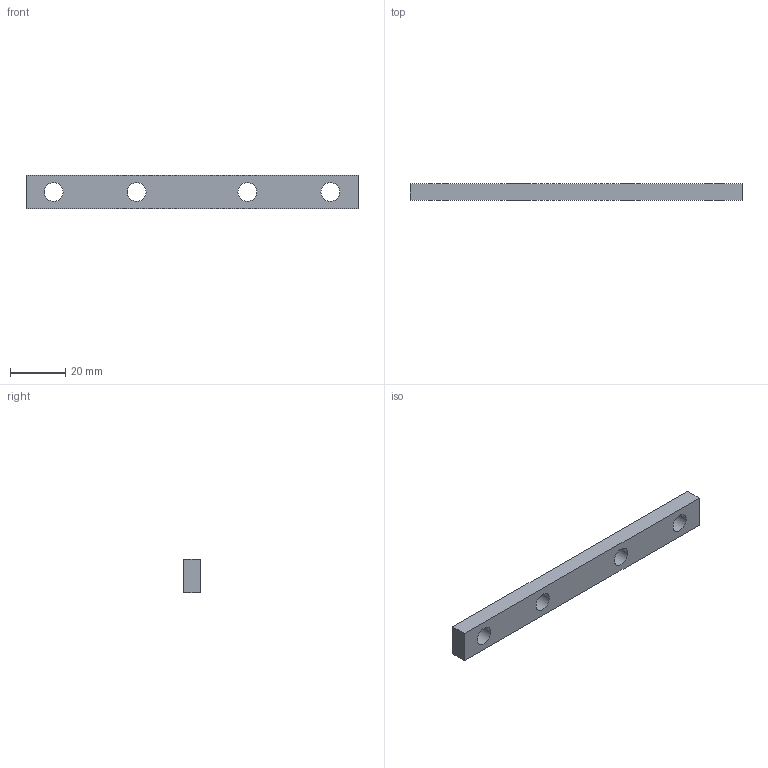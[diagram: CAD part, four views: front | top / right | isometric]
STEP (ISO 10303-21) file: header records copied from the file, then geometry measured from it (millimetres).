
FILE_DESCRIPTION(/* description */ (''),/* implementation_level */ '2;1');
FILE_NAME(/* name */ 'Pos160-1013-1 0Connector L120 M8 SMALL-Aluminium-niet behandelen-7st',/* time_stamp */ '2024-08-06T11:49:41+02:00',/* author */ (''),/* organization */ (''),/* preprocessor_version */ 'ST-DEVELOPER v16.5',/* originating_system */ 'HiCAD 2024 2901.2 Build 361',/* authorisation */ '');
FILE_SCHEMA (('AUTOMOTIVE_DESIGN { 1 0 10303 214 1 1 1 1 }'));
Length unit declared in the file: millimetre
Products named in the file (1): Pos160-1013-1 0Connector L120 M8 SMALL-Aluminium-niet behandelen-7st
Bounding box: 120 x 6 x 12 mm (x, y, z)
Volume: 7768.4 mm3; surface area: 4686.2 mm2
Topology: 1 solids, 1 shells, 10 faces, 28 edges, 20 vertices
Faces by surface type: plane 6, cylinder 4
Full cylindrical faces by diameter (mm): 6.8 x4
Entity records: 510 total; most frequent: DIRECTION 48, CARTESIAN_POINT 46, PRESENTATION_STYLE_ASSIGNMENT 41, COLOUR_RGB 41, DRAUGHTING_PRE_DEFINED_CURVE_FONT 40, CURVE_STYLE 40, OVER_RIDING_STYLED_ITEM 40, ORIENTED_EDGE 40
